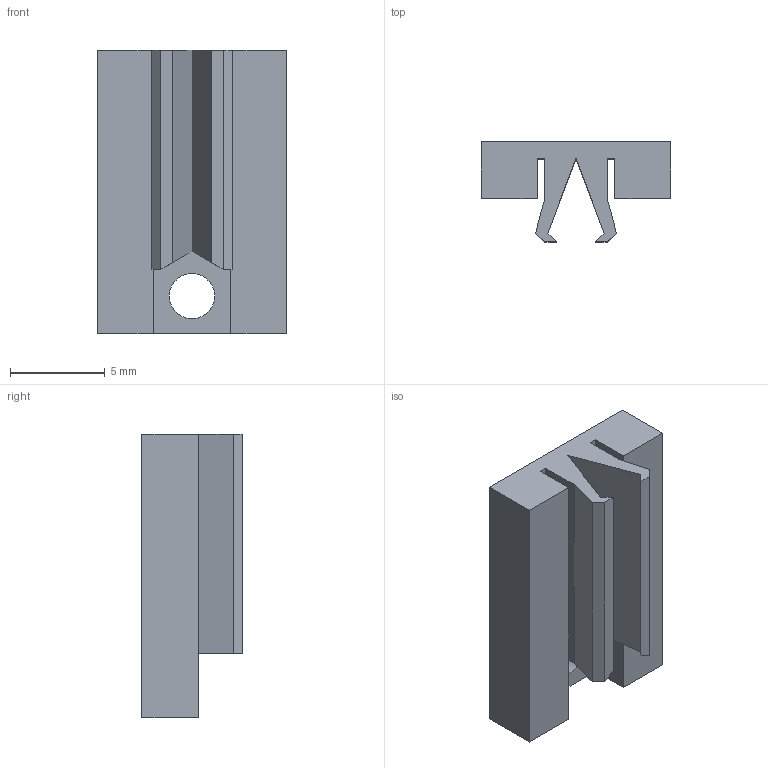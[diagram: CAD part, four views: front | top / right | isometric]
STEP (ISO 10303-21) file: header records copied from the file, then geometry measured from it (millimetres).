
FILE_DESCRIPTION(/* description */ (''),/* implementation_level */ '2;1');
FILE_NAME(/* name */ 'C:/Users/priba/Downloads/brick-spac2short.step',/* time_stamp */ '2020-10-04T19:49:18+02:00',/* author */ (''),/* organization */ (''),/* preprocessor_version */ 'ST-DEVELOPER v18.1',/* originating_system */ 'Autodesk Translation Framework v9.3.0.1241',/* authorisation */ '');
FILE_SCHEMA (('AUTOMOTIVE_DESIGN { 1 0 10303 214 3 1 1 }'));
Length unit declared in the file: millimetre
Products named in the file (1): brick-spac2short
Bounding box: 10 x 5.31 x 15 mm (x, y, z)
Volume: 414.1 mm3; surface area: 706.4 mm2
Topology: 1 solids, 1 shells, 31 faces, 85 edges, 56 vertices
Faces by surface type: plane 30, cylinder 1
Full cylindrical faces by diameter (mm): 2.4 x1
Entity records: 991 total; most frequent: CARTESIAN_POINT 173, ORIENTED_EDGE 170, DIRECTION 151, EDGE_CURVE 85, LINE 83, VECTOR 83, VERTEX_POINT 56, AXIS2_PLACEMENT_3D 34
